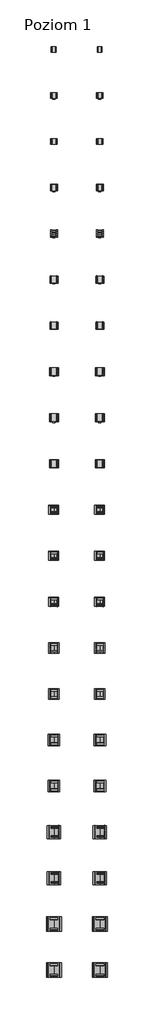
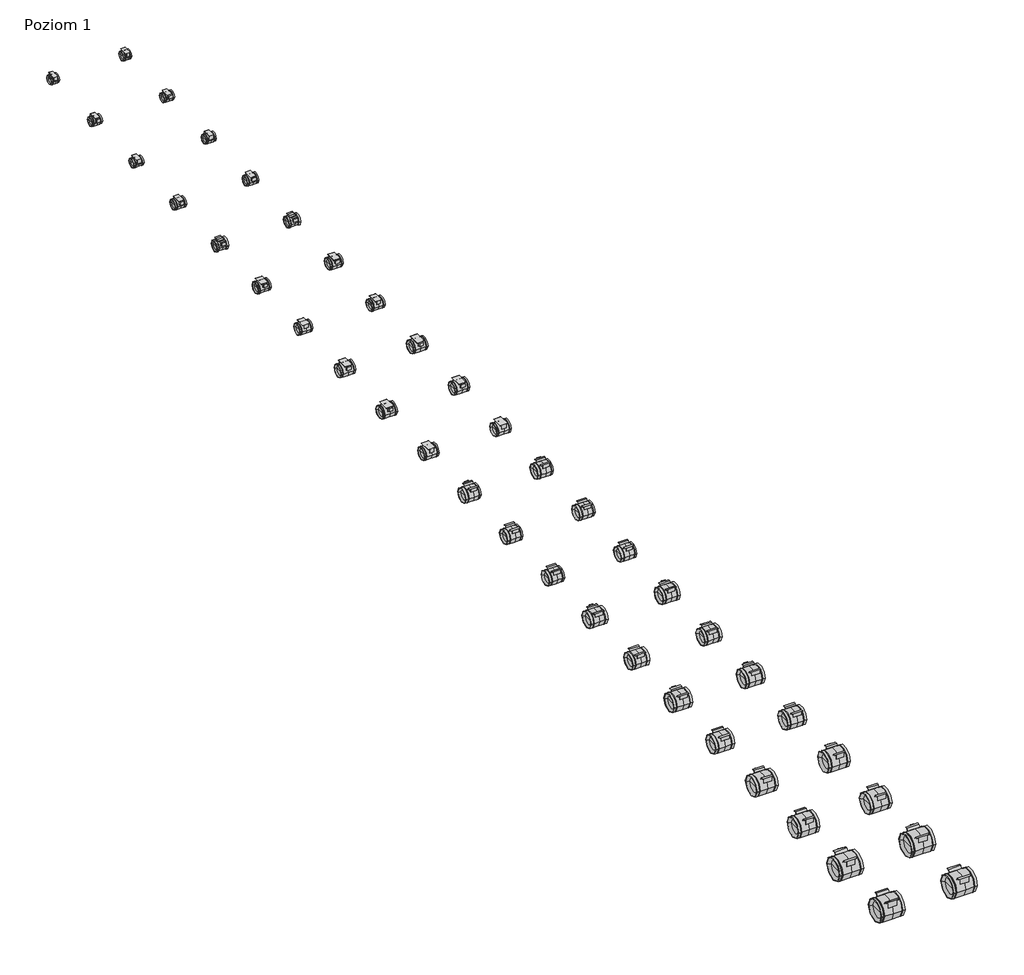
# One storey, incomplete: 42 unitary equipment elements.
"""IFC4 building model written with IfcOpenShell, lengths in millimetres."""

from ifc_helpers import new_model, si_unit, origin, place, context, project, spatial, transform, mapped, element, save
from components import unitary_equipment_25998c49, unitary_equipment_61d8eaaf, unitary_equipment_73fab27a, unitary_equipment_6ef10c1b, unitary_equipment_03b9eef8, unitary_equipment_868456c3, unitary_equipment_eebdb97d, unitary_equipment_794affb7, unitary_equipment_c92f0478, unitary_equipment_0e52d737, unitary_equipment_4c27e171, unitary_equipment_d3777f55, unitary_equipment_682f7cd7, unitary_equipment_95939982, unitary_equipment_524c3896, unitary_equipment_2de572d7, unitary_equipment_a40bd1b7, unitary_equipment_dfc384ea, unitary_equipment_7df76545

model = new_model("IFC4")

# Units and contexts
model_context = context("Model", 3, world=origin())
ifc_project = project(units=[si_unit("LENGTHUNIT", "METRE", prefix="MILLI")], contexts=[model_context])

# Site, building, storey
site = spatial("IfcSite", under=ifc_project)
building = spatial("IfcBuilding", under=site)
storey = spatial("IfcBuildingStorey", under=building, Name="Poziom 1", Elevation=0.0)

# Unitary equipment
placement = place(None, origin())
unitary_equipment_shape = unitary_equipment_25998c49(model_context)
element("IfcUnitaryEquipment", 1, ObjectType="VE-Wentylator-ParaForma-Harmann-JETTEC-Nawiewny : 250/1600S", at=placement, inside=storey, context=model_context, shape_type="MappedRepresentation", body=[
    mapped(unitary_equipment_shape, transform((6582.5, 21000.0, 0.0), x_axis=(1.0, 0.0, 0.0), y_axis=(0.0, 1.0, 0.0), z_axis=(0.0, 0.0, 1.0))),
])
unitary_equipment_2_shape = unitary_equipment_61d8eaaf(model_context)
element("IfcUnitaryEquipment", 2, ObjectType="VE-Wentylator-ParaForma-Harmann-JETTEC-Nawiewny : 250/1700S", at=placement, inside=storey, context=model_context, shape_type="MappedRepresentation", body=[
    mapped(unitary_equipment_2_shape, transform((6582.5, 19000.0, 0.0), x_axis=(1.0, 0.0, 0.0), y_axis=(0.0, 1.0, 0.0), z_axis=(0.0, 0.0, 1.0))),
])
unitary_equipment_3_shape = unitary_equipment_73fab27a(model_context)
element("IfcUnitaryEquipment", 3, ObjectType="VE-Wentylator-ParaForma-Harmann-JETTEC-Nawiewny : 280/2300S", at=placement, inside=storey, context=model_context, shape_type="MappedRepresentation", body=[
    mapped(unitary_equipment_3_shape, transform((6582.5, 15000.0, 0.0), x_axis=(1.0, 0.0, 0.0), y_axis=(0.0, 1.0, 0.0), z_axis=(0.0, 0.0, 1.0))),
])
unitary_equipment_4_shape = unitary_equipment_6ef10c1b(model_context)
element("IfcUnitaryEquipment", 4, ObjectType="VE-Wentylator-ParaForma-Harmann-JETTEC-Nawiewny : 315/2300S", at=placement, inside=storey, context=model_context, shape_type="MappedRepresentation", body=[
    mapped(unitary_equipment_4_shape, transform((6582.5, 13000.0, 0.0), x_axis=(1.0, 0.0, 0.0), y_axis=(0.0, 1.0, 0.0), z_axis=(0.0, 0.0, 1.0))),
])
unitary_equipment_5_shape = unitary_equipment_03b9eef8(model_context)
element("IfcUnitaryEquipment", 5, ObjectType="VE-Wentylator-ParaForma-Harmann-JETTEC-Nawiewny : 315/3500S", at=placement, inside=storey, context=model_context, shape_type="MappedRepresentation", body=[
    mapped(unitary_equipment_5_shape, transform((6582.5, 11000.0, 0.0), x_axis=(1.0, 0.0, 0.0), y_axis=(0.0, 1.0, 0.0), z_axis=(0.0, 0.0, 1.0))),
])
unitary_equipment_6_shape = unitary_equipment_868456c3(model_context)
element("IfcUnitaryEquipment", 6, ObjectType="VE-Wentylator-ParaForma-Harmann-JETTEC-Nawiewny : 355/2600S", at=placement, inside=storey, context=model_context, shape_type="MappedRepresentation", body=[
    mapped(unitary_equipment_6_shape, transform((6582.5, 7000.0, 0.0), x_axis=(1.0, 0.0, 0.0), y_axis=(0.0, 1.0, 0.0), z_axis=(0.0, 0.0, 1.0))),
])
element("IfcUnitaryEquipment", 7, ObjectType="VE-Wentylator-ParaForma-Harmann-JETTEC-Nawiewny : 355/5000S", at=placement, inside=storey, context=model_context, shape_type="MappedRepresentation", body=[
    mapped(unitary_equipment_6_shape, transform((6582.5, 5000.0, 0.0), x_axis=(1.0, 0.0, 0.0), y_axis=(0.0, 1.0, 0.0), z_axis=(0.0, 0.0, 1.0))),
])
unitary_equipment_7_shape = unitary_equipment_eebdb97d(model_context)
element("IfcUnitaryEquipment", 8, ObjectType="VE-Wentylator-ParaForma-Harmann-JETTEC-Nawiewny : 400/3400S", at=placement, inside=storey, context=model_context, shape_type="MappedRepresentation", body=[
    mapped(unitary_equipment_7_shape, transform((6582.5, 1000.0, 0.0), x_axis=(1.0, 0.0, 0.0), y_axis=(0.0, 1.0, 0.0), z_axis=(0.0, 0.0, 1.0))),
])
unitary_equipment_8_shape = unitary_equipment_794affb7(model_context)
element("IfcUnitaryEquipment", 9, ObjectType="VE-Wentylator-ParaForma-Harmann-JETTEC-Nawiewny : 450/5000S", at=placement, inside=storey, context=model_context, shape_type="MappedRepresentation", body=[
    mapped(unitary_equipment_8_shape, transform((6582.5, -5000.0, 0.0), x_axis=(1.0, 0.0, 0.0), y_axis=(0.0, 1.0, 0.0), z_axis=(0.0, 0.0, 1.0))),
])
unitary_equipment_9_shape = unitary_equipment_c92f0478(model_context)
element("IfcUnitaryEquipment", 10, ObjectType="VE-Wentylator-ParaForma-Harmann-JETTEC-Nawiewny : 500/6700S", at=placement, inside=storey, context=model_context, shape_type="MappedRepresentation", body=[
    mapped(unitary_equipment_9_shape, transform((6582.5, -9000.0, 0.0), x_axis=(1.0, 0.0, 0.0), y_axis=(0.0, 1.0, 0.0), z_axis=(0.0, 0.0, 1.0))),
])
unitary_equipment_10_shape = unitary_equipment_0e52d737(model_context)
element("IfcUnitaryEquipment", 11, ObjectType="VE-Wentylator-ParaForma-Harmann-JETTEC-Nawiewny : 560/9600S", at=placement, inside=storey, context=model_context, shape_type="MappedRepresentation", body=[
    mapped(unitary_equipment_10_shape, transform((6582.5, -13000.0, 0.0), x_axis=(1.0, 0.0, 0.0), y_axis=(0.0, 1.0, 0.0), z_axis=(0.0, 0.0, 1.0))),
])
unitary_equipment_11_shape = unitary_equipment_4c27e171(model_context)
element("IfcUnitaryEquipment", 12, ObjectType="VE-Wentylator-ParaForma-Harmann-JETTEC-Nawiewny : 630/14000S", at=placement, inside=storey, context=model_context, shape_type="MappedRepresentation", body=[
    mapped(unitary_equipment_11_shape, transform((6582.5, -17000.0, 0.0), x_axis=(1.0, 0.0, 0.0), y_axis=(0.0, 1.0, 0.0), z_axis=(0.0, 0.0, 1.0))),
])
unitary_equipment_12_shape = unitary_equipment_d3777f55(model_context)
element("IfcUnitaryEquipment", 13, ObjectType="VE-Wentylator-ParaForma-Harmann-JETTEC-Nawiewny : 250/2400F", at=placement, inside=storey, context=model_context, shape_type="MappedRepresentation", body=[
    mapped(unitary_equipment_12_shape, transform((6582.5, 17000.0, 0.0), x_axis=(1.0, 0.0, 0.0), y_axis=(0.0, 1.0, 0.0), z_axis=(0.0, 0.0, 1.0))),
])
unitary_equipment_13_shape = unitary_equipment_682f7cd7(model_context)
element("IfcUnitaryEquipment", 14, ObjectType="VE-Wentylator-ParaForma-Harmann-JETTEC-Nawiewny : 315/4300F", at=placement, inside=storey, context=model_context, shape_type="MappedRepresentation", body=[
    mapped(unitary_equipment_13_shape, transform((6582.5, 9000.0, 0.0), x_axis=(1.0, 0.0, 0.0), y_axis=(0.0, 1.0, 0.0), z_axis=(0.0, 0.0, 1.0))),
])
unitary_equipment_14_shape = unitary_equipment_95939982(model_context)
element("IfcUnitaryEquipment", 15, ObjectType="VE-Wentylator-ParaForma-Harmann-JETTEC-Nawiewny : 355/5100F", at=placement, inside=storey, context=model_context, shape_type="MappedRepresentation", body=[
    mapped(unitary_equipment_14_shape, transform((6582.5, 3000.0, 0.0), x_axis=(1.0, 0.0, 0.0), y_axis=(0.0, 1.0, 0.0), z_axis=(0.0, 0.0, 1.0))),
])
unitary_equipment_15_shape = unitary_equipment_524c3896(model_context)
element("IfcUnitaryEquipment", 16, ObjectType="VE-Wentylator-ParaForma-Harmann-JETTEC-Nawiewny : 400/5200F", at=placement, inside=storey, context=model_context, shape_type="MappedRepresentation", body=[
    mapped(unitary_equipment_15_shape, transform((6582.5, -1000.0, 0.0), x_axis=(1.0, 0.0, 0.0), y_axis=(0.0, 1.0, 0.0), z_axis=(0.0, 0.0, 1.0))),
])
element("IfcUnitaryEquipment", 17, ObjectType="VE-Wentylator-ParaForma-Harmann-JETTEC-Nawiewny : 400/6900F", at=placement, inside=storey, context=model_context, shape_type="MappedRepresentation", body=[
    mapped(unitary_equipment_15_shape, transform((6582.5, -3000.0, 0.0), x_axis=(1.0, 0.0, 0.0), y_axis=(0.0, 1.0, 0.0), z_axis=(0.0, 0.0, 1.0))),
])
unitary_equipment_16_shape = unitary_equipment_2de572d7(model_context)
element("IfcUnitaryEquipment", 18, ObjectType="VE-Wentylator-ParaForma-Harmann-JETTEC-Nawiewny : 450/7300F", at=placement, inside=storey, context=model_context, shape_type="MappedRepresentation", body=[
    mapped(unitary_equipment_16_shape, transform((6582.5, -7000.0, 0.0), x_axis=(1.0, 0.0, 0.0), y_axis=(0.0, 1.0, 0.0), z_axis=(0.0, 0.0, 1.0))),
])
unitary_equipment_17_shape = unitary_equipment_a40bd1b7(model_context)
element("IfcUnitaryEquipment", 19, ObjectType="VE-Wentylator-ParaForma-Harmann-JETTEC-Nawiewny : 500/9900F", at=placement, inside=storey, context=model_context, shape_type="MappedRepresentation", body=[
    mapped(unitary_equipment_17_shape, transform((6582.5, -11000.0, 0.0), x_axis=(1.0, 0.0, 0.0), y_axis=(0.0, 1.0, 0.0), z_axis=(0.0, 0.0, 1.0))),
])
unitary_equipment_18_shape = unitary_equipment_dfc384ea(model_context)
element("IfcUnitaryEquipment", 20, ObjectType="VE-Wentylator-ParaForma-Harmann-JETTEC-Nawiewny : 560/10800F", at=placement, inside=storey, context=model_context, shape_type="MappedRepresentation", body=[
    mapped(unitary_equipment_18_shape, transform((6582.5, -15000.0, 0.0), x_axis=(1.0, 0.0, 0.0), y_axis=(0.0, 1.0, 0.0), z_axis=(0.0, 0.0, 1.0))),
])
unitary_equipment_19_shape = unitary_equipment_7df76545(model_context)
element("IfcUnitaryEquipment", 21, ObjectType="VE-Wentylator-ParaForma-Harmann-JETTEC-Nawiewny : 630/16300F", at=placement, inside=storey, context=model_context, shape_type="MappedRepresentation", body=[
    mapped(unitary_equipment_19_shape, transform((6582.5, -19000.0, 0.0), x_axis=(1.0, 0.0, 0.0), y_axis=(0.0, 1.0, 0.0), z_axis=(0.0, 0.0, 1.0))),
])
element("IfcUnitaryEquipment", 22, ObjectType="VE-Wentylator-ParaForma-Harmann-JETTEC-Wywiewny : 250/1600S", at=placement, inside=storey, context=model_context, shape_type="MappedRepresentation", body=[
    mapped(unitary_equipment_shape, transform((4582.5, 21000.0, 0.0), x_axis=(1.0, 0.0, 0.0), y_axis=(0.0, 1.0, 0.0), z_axis=(0.0, 0.0, 1.0))),
])
element("IfcUnitaryEquipment", 23, ObjectType="VE-Wentylator-ParaForma-Harmann-JETTEC-Wywiewny : 250/1700S", at=placement, inside=storey, context=model_context, shape_type="MappedRepresentation", body=[
    mapped(unitary_equipment_2_shape, transform((4582.5, 19000.0, 0.0), x_axis=(1.0, 0.0, 0.0), y_axis=(0.0, 1.0, 0.0), z_axis=(0.0, 0.0, 1.0))),
])
element("IfcUnitaryEquipment", 24, ObjectType="VE-Wentylator-ParaForma-Harmann-JETTEC-Wywiewny : 280/2300S", at=placement, inside=storey, context=model_context, shape_type="MappedRepresentation", body=[
    mapped(unitary_equipment_3_shape, transform((4582.5, 15000.0, 0.0), x_axis=(1.0, 0.0, 0.0), y_axis=(0.0, 1.0, 0.0), z_axis=(0.0, 0.0, 1.0))),
])
element("IfcUnitaryEquipment", 25, ObjectType="VE-Wentylator-ParaForma-Harmann-JETTEC-Wywiewny : 315/2300S", at=placement, inside=storey, context=model_context, shape_type="MappedRepresentation", body=[
    mapped(unitary_equipment_4_shape, transform((4582.5, 13000.0, 0.0), x_axis=(1.0, 0.0, 0.0), y_axis=(0.0, 1.0, 0.0), z_axis=(0.0, 0.0, 1.0))),
])
element("IfcUnitaryEquipment", 26, ObjectType="VE-Wentylator-ParaForma-Harmann-JETTEC-Wywiewny : 315/3500S", at=placement, inside=storey, context=model_context, shape_type="MappedRepresentation", body=[
    mapped(unitary_equipment_5_shape, transform((4582.5, 11000.0, 0.0), x_axis=(1.0, 0.0, 0.0), y_axis=(0.0, 1.0, 0.0), z_axis=(0.0, 0.0, 1.0))),
])
element("IfcUnitaryEquipment", 27, ObjectType="VE-Wentylator-ParaForma-Harmann-JETTEC-Wywiewny : 355/2600S", at=placement, inside=storey, context=model_context, shape_type="MappedRepresentation", body=[
    mapped(unitary_equipment_6_shape, transform((4582.5, 7000.0, 0.0), x_axis=(1.0, 0.0, 0.0), y_axis=(0.0, 1.0, 0.0), z_axis=(0.0, 0.0, 1.0))),
])
element("IfcUnitaryEquipment", 28, ObjectType="VE-Wentylator-ParaForma-Harmann-JETTEC-Wywiewny : 355/5000S", at=placement, inside=storey, context=model_context, shape_type="MappedRepresentation", body=[
    mapped(unitary_equipment_6_shape, transform((4582.5, 5000.0, 0.0), x_axis=(1.0, 0.0, 0.0), y_axis=(0.0, 1.0, 0.0), z_axis=(0.0, 0.0, 1.0))),
])
element("IfcUnitaryEquipment", 29, ObjectType="VE-Wentylator-ParaForma-Harmann-JETTEC-Wywiewny : 400/3400S", at=placement, inside=storey, context=model_context, shape_type="MappedRepresentation", body=[
    mapped(unitary_equipment_7_shape, transform((4582.5, 1000.0, 0.0), x_axis=(1.0, 0.0, 0.0), y_axis=(0.0, 1.0, 0.0), z_axis=(0.0, 0.0, 1.0))),
])
element("IfcUnitaryEquipment", 30, ObjectType="VE-Wentylator-ParaForma-Harmann-JETTEC-Wywiewny : 450/5000S", at=placement, inside=storey, context=model_context, shape_type="MappedRepresentation", body=[
    mapped(unitary_equipment_8_shape, transform((4582.5, -5000.0, 0.0), x_axis=(1.0, 0.0, 0.0), y_axis=(0.0, 1.0, 0.0), z_axis=(0.0, 0.0, 1.0))),
])
element("IfcUnitaryEquipment", 31, ObjectType="VE-Wentylator-ParaForma-Harmann-JETTEC-Wywiewny : 500/6700S", at=placement, inside=storey, context=model_context, shape_type="MappedRepresentation", body=[
    mapped(unitary_equipment_9_shape, transform((4582.5, -9000.0, 0.0), x_axis=(1.0, 0.0, 0.0), y_axis=(0.0, 1.0, 0.0), z_axis=(0.0, 0.0, 1.0))),
])
element("IfcUnitaryEquipment", 32, ObjectType="VE-Wentylator-ParaForma-Harmann-JETTEC-Wywiewny : 560/9600S", at=placement, inside=storey, context=model_context, shape_type="MappedRepresentation", body=[
    mapped(unitary_equipment_10_shape, transform((4582.5, -13000.0, 0.0), x_axis=(1.0, 0.0, 0.0), y_axis=(0.0, 1.0, 0.0), z_axis=(0.0, 0.0, 1.0))),
])
element("IfcUnitaryEquipment", 33, ObjectType="VE-Wentylator-ParaForma-Harmann-JETTEC-Wywiewny : 630/14000S", at=placement, inside=storey, context=model_context, shape_type="MappedRepresentation", body=[
    mapped(unitary_equipment_11_shape, transform((4582.5, -17000.0, 0.0), x_axis=(1.0, 0.0, 0.0), y_axis=(0.0, 1.0, 0.0), z_axis=(0.0, 0.0, 1.0))),
])
element("IfcUnitaryEquipment", 34, ObjectType="VE-Wentylator-ParaForma-Harmann-JETTEC-Wywiewny : 250/2400F", at=placement, inside=storey, context=model_context, shape_type="MappedRepresentation", body=[
    mapped(unitary_equipment_12_shape, transform((4582.5, 17000.0, 0.0), x_axis=(1.0, 0.0, 0.0), y_axis=(0.0, 1.0, 0.0), z_axis=(0.0, 0.0, 1.0))),
])
element("IfcUnitaryEquipment", 35, ObjectType="VE-Wentylator-ParaForma-Harmann-JETTEC-Wywiewny : 315/4300F", at=placement, inside=storey, context=model_context, shape_type="MappedRepresentation", body=[
    mapped(unitary_equipment_13_shape, transform((4582.5, 9000.0, 0.0), x_axis=(1.0, 0.0, 0.0), y_axis=(0.0, 1.0, 0.0), z_axis=(0.0, 0.0, 1.0))),
])
element("IfcUnitaryEquipment", 36, ObjectType="VE-Wentylator-ParaForma-Harmann-JETTEC-Wywiewny : 355/5100F", at=placement, inside=storey, context=model_context, shape_type="MappedRepresentation", body=[
    mapped(unitary_equipment_14_shape, transform((4582.5, 3000.0, 0.0), x_axis=(1.0, 0.0, 0.0), y_axis=(0.0, 1.0, 0.0), z_axis=(0.0, 0.0, 1.0))),
])
element("IfcUnitaryEquipment", 37, ObjectType="VE-Wentylator-ParaForma-Harmann-JETTEC-Wywiewny : 400/5200F", at=placement, inside=storey, context=model_context, shape_type="MappedRepresentation", body=[
    mapped(unitary_equipment_15_shape, transform((4582.5, -1000.0, 0.0), x_axis=(1.0, 0.0, 0.0), y_axis=(0.0, 1.0, 0.0), z_axis=(0.0, 0.0, 1.0))),
])
element("IfcUnitaryEquipment", 38, ObjectType="VE-Wentylator-ParaForma-Harmann-JETTEC-Wywiewny : 400/6900F", at=placement, inside=storey, context=model_context, shape_type="MappedRepresentation", body=[
    mapped(unitary_equipment_15_shape, transform((4582.5, -3000.0, 0.0), x_axis=(1.0, 0.0, 0.0), y_axis=(0.0, 1.0, 0.0), z_axis=(0.0, 0.0, 1.0))),
])
element("IfcUnitaryEquipment", 39, ObjectType="VE-Wentylator-ParaForma-Harmann-JETTEC-Wywiewny : 450/7300F", at=placement, inside=storey, context=model_context, shape_type="MappedRepresentation", body=[
    mapped(unitary_equipment_16_shape, transform((4582.5, -7000.0, 0.0), x_axis=(1.0, 0.0, 0.0), y_axis=(0.0, 1.0, 0.0), z_axis=(0.0, 0.0, 1.0))),
])
element("IfcUnitaryEquipment", 40, ObjectType="VE-Wentylator-ParaForma-Harmann-JETTEC-Wywiewny : 500/9900F", at=placement, inside=storey, context=model_context, shape_type="MappedRepresentation", body=[
    mapped(unitary_equipment_17_shape, transform((4582.5, -11000.0, 0.0), x_axis=(1.0, 0.0, 0.0), y_axis=(0.0, 1.0, 0.0), z_axis=(0.0, 0.0, 1.0))),
])
element("IfcUnitaryEquipment", 41, ObjectType="VE-Wentylator-ParaForma-Harmann-JETTEC-Wywiewny : 560/10800F", at=placement, inside=storey, context=model_context, shape_type="MappedRepresentation", body=[
    mapped(unitary_equipment_18_shape, transform((4582.5, -15000.0, 0.0), x_axis=(1.0, 0.0, 0.0), y_axis=(0.0, 1.0, 0.0), z_axis=(0.0, 0.0, 1.0))),
])
element("IfcUnitaryEquipment", 42, ObjectType="VE-Wentylator-ParaForma-Harmann-JETTEC-Wywiewny : 630/16300F", at=placement, inside=storey, context=model_context, shape_type="MappedRepresentation", body=[
    mapped(unitary_equipment_19_shape, transform((4582.5, -19000.0, 0.0), x_axis=(1.0, 0.0, 0.0), y_axis=(0.0, 1.0, 0.0), z_axis=(0.0, 0.0, 1.0))),
])

save(model, "model.ifc")
